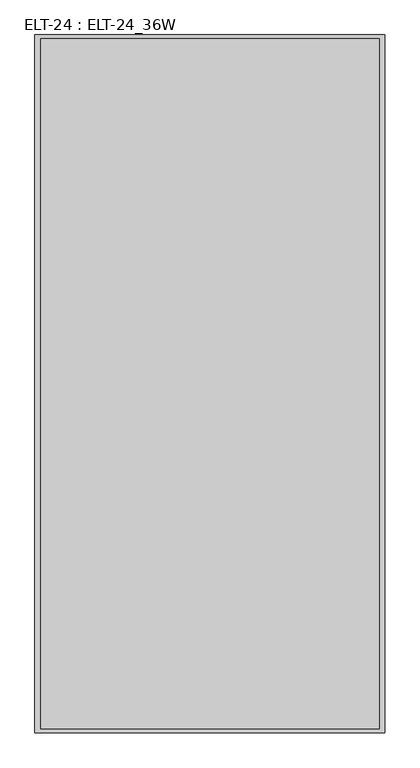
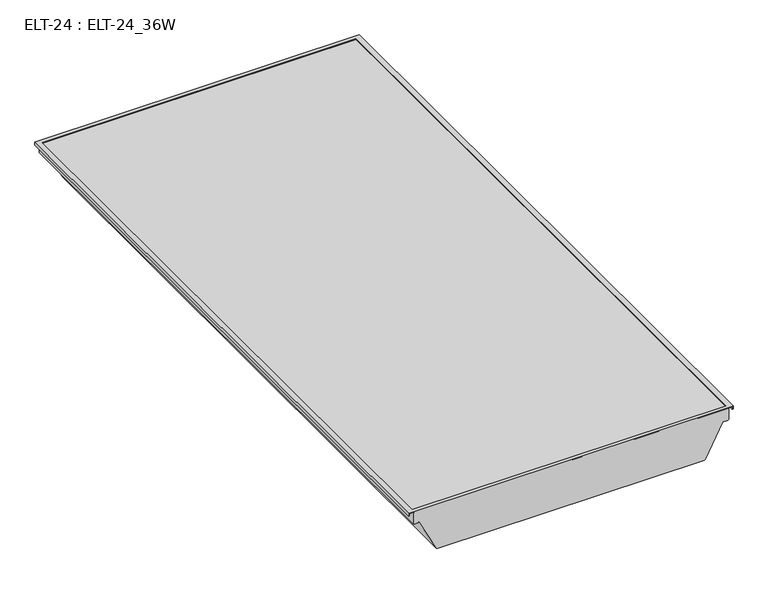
"""IFC4 building model written with IfcOpenShell, lengths in millimetres: light fixture geometry, ELT-24 : ELT-24_36W."""

import ifcopenshell
import ifcopenshell.guid

model = None  # the IFC model being written
_history = None  # IfcOwnerHistory: only IFC2X3 demands one
_inside = {}  # id of a spatial element -> (the spatial element, [elements in it])
_under = {}  # id of a project, library or spatial element -> (it, [spatial elements below it])
_declared = {}  # id of a project -> (the project, [libraries it declares])
_typed = {}  # id of a type object -> (the type object, [elements of that type])
_made_of = {}  # id of a material, layer set ... -> (it, [elements and type objects made of it])


def new_model(schema):
    """Start an empty IFC model of exactly this schema.

    Asked for "IFC4X3", IfcOpenShell would pick the latest addendum, in which some entities
    have other attributes; the version numbers below select the first issue.
    IFC2X3 requires an IfcOwnerHistory on every rooted entity: one is made here for all.
    """
    global model, _history
    if schema == "IFC4X3":
        model = ifcopenshell.file(schema_version=(4, 3, 0, 0))
    else:
        model = ifcopenshell.file(schema=schema)
    _inside.clear()
    _under.clear()
    _declared.clear()
    _typed.clear()
    _made_of.clear()
    _history = None
    if model.schema == "IFC2X3":
        org = make("IfcOrganization", Name="unknown")
        user = make(
            "IfcPersonAndOrganization",
            ThePerson=make("IfcPerson", FamilyName="unknown"),
            TheOrganization=org,
        )
        app = make(
            "IfcApplication",
            ApplicationDeveloper=org,
            Version="unknown",
            ApplicationFullName="unknown",
            ApplicationIdentifier="unknown",
        )
        _history = make(
            "IfcOwnerHistory",
            OwningUser=user,
            OwningApplication=app,
            ChangeAction="ADDED",
            CreationDate=0,
        )
    return model


def make(cls, **values):
    """One entity of the class cls with the attributes given. An attribute that is None is left unset."""
    return model.create_entity(
        cls, **{name: value for name, value in values.items() if value is not None}
    )


def rooted(cls, **values):
    """An entity with a GlobalId (a new one), such as an element, a storey or a relation."""
    return make(cls, GlobalId=ifcopenshell.guid.new(), OwnerHistory=_history, **values)


def si_unit(unit_type, name, prefix=None):
    """IfcSIUnit, for example si_unit("LENGTHUNIT", "METRE", prefix="MILLI")."""
    return make("IfcSIUnit", UnitType=unit_type, Prefix=prefix, Name=name)


def assignment(units):
    """IfcUnitAssignment: the units of a project."""
    return None if units is None else make("IfcUnitAssignment", Units=units)


def point(xyz):
    """IfcCartesianPoint."""
    return None if xyz is None else make("IfcCartesianPoint", Coordinates=xyz)


def direction(xyz):
    """IfcDirection."""
    return None if xyz is None else make("IfcDirection", DirectionRatios=xyz)


def frame(location, z_axis=None, x_axis=None):
    """IfcAxis2Placement3D, a coordinate frame: its origin and axes. An axis left out is left unset."""
    return make(
        "IfcAxis2Placement3D",
        Location=point(location),
        Axis=direction(z_axis),
        RefDirection=direction(x_axis),
    )


def origin():
    """The frame at (0, 0, 0) with its axes left unset."""
    return frame((0.0, 0.0, 0.0))


def place(relative_to, where):
    """IfcLocalPlacement: puts the frame where relative to a parent placement (None: the world)."""
    return make(
        "IfcLocalPlacement", PlacementRelTo=relative_to, RelativePlacement=where
    )


def context(
    kind, dimensions, precision=None, world=None, true_north=None, identifier=None
):
    """IfcGeometricRepresentationContext, for example the 3D "Model" context."""
    return make(
        "IfcGeometricRepresentationContext",
        ContextIdentifier=identifier,
        ContextType=kind,
        CoordinateSpaceDimension=dimensions,
        Precision=precision,
        WorldCoordinateSystem=world,
        TrueNorth=true_north,
    )


def project(units=None, contexts=None):
    """IfcProject with its units and contexts."""
    return rooted(
        "IfcProject",
        Name="project",
        RepresentationContexts=contexts,
        UnitsInContext=assignment(units),
    )


def spatial(cls, under=None, at=None, **own):
    """A site, building, storey or space (cls), placed at a placement, below another one or the project."""
    s = rooted(cls, ObjectPlacement=at, **own)
    if under is not None:
        _under.setdefault(under.id(), (under, []))[1].append(s)
    return s


def polyline(points):
    """IfcPolyline through the points."""
    return make("IfcPolyline", Points=[point(p) for p in points])


def outline(outer, holes=None, kind="AREA"):
    """IfcArbitraryClosedProfileDef: a profile drawn as a closed curve; with holes, ...WithVoids."""
    if holes is None:
        return make("IfcArbitraryClosedProfileDef", ProfileType=kind, OuterCurve=outer)
    return make(
        "IfcArbitraryProfileDefWithVoids",
        ProfileType=kind,
        OuterCurve=outer,
        InnerCurves=holes,
    )


def extrude(swept, where, along, depth):
    """IfcExtrudedAreaSolid: the profile swept, set in the frame where, extruded along a direction by depth."""
    return make(
        "IfcExtrudedAreaSolid",
        SweptArea=swept,
        Position=where,
        ExtrudedDirection=direction(along),
        Depth=depth,
    )


def faces_of(points, faces, orient=None, outer=None):
    """IfcFace entities. A face is a list of loops; a loop is a list of indices into points, from 0.

    orient and outer hold one flag for each loop. By default every Orientation is true, the
    first loop of a face is its IfcFaceOuterBound and the others are IfcFaceBound.
    """
    made = []
    for i, loops in enumerate(faces):
        bounds = []
        for j, loop in enumerate(loops):
            is_outer = j == 0 if outer is None else outer[i][j]
            bounds.append(
                make(
                    "IfcFaceOuterBound" if is_outer else "IfcFaceBound",
                    Bound=make("IfcPolyLoop", Polygon=[points[k] for k in loop]),
                    Orientation=True if orient is None else orient[i][j],
                )
            )
        made.append(make("IfcFace", Bounds=bounds))
    return made


def faceted_brep(points, faces, orient=None, outer=None, voids=None):
    """IfcFacetedBrep: a solid bounded by flat faces; with voids (closed shells), ...WithVoids."""
    shared = [point(p) for p in points]
    hull = make("IfcClosedShell", CfsFaces=faces_of(shared, faces, orient, outer))
    if voids is None:
        return make("IfcFacetedBrep", Outer=hull)
    return make(
        "IfcFacetedBrepWithVoids",
        Outer=hull,
        Voids=[
            make(cls, CfsFaces=faces_of(shared, fs, o, b)) for cls, fs, o, b in voids
        ],
    )


def shape(context_of_items, identifier, shape_type, items):
    """IfcShapeRepresentation: the items that make up one representation, for example the "Body"."""
    return make(
        "IfcShapeRepresentation",
        ContextOfItems=context_of_items,
        RepresentationIdentifier=identifier,
        RepresentationType=shape_type,
        Items=items,
    )


def source(mapping_origin, context_of_items, identifier, shape_type, items):
    """IfcRepresentationMap: a shape defined once, which mapped items show again and again."""
    return make(
        "IfcRepresentationMap",
        MappingOrigin=mapping_origin,
        MappedRepresentation=shape(context_of_items, identifier, shape_type, items),
    )


def transform(
    local_origin,
    x_axis=None,
    y_axis=None,
    z_axis=None,
    scale=None,
    scale2=None,
    scale3=None,
    uniform=True,
):
    """IfcCartesianTransformationOperator3D, or its non-uniform kind. x_axis, y_axis, z_axis: its Axis1, 2, 3."""
    if uniform:
        return make(
            "IfcCartesianTransformationOperator3D",
            Axis1=direction(x_axis),
            Axis2=direction(y_axis),
            LocalOrigin=point(local_origin),
            Scale=scale,
            Axis3=direction(z_axis),
        )
    return make(
        "IfcCartesianTransformationOperator3DnonUniform",
        Axis1=direction(x_axis),
        Axis2=direction(y_axis),
        LocalOrigin=point(local_origin),
        Scale=scale,
        Axis3=direction(z_axis),
        Scale2=scale2,
        Scale3=scale3,
    )


def mapped(mapping_source, mapping_target):
    """IfcMappedItem: shows the shape of a source again, moved by a transform."""
    return make(
        "IfcMappedItem", MappingSource=mapping_source, MappingTarget=mapping_target
    )


def made_of(thing, what):
    """Note that an element or type object is made of a material, layer set ...; save() writes the relation."""
    if what is not None:
        _made_of.setdefault(what.id(), (what, []))[1].append(thing)
    return thing


def element(
    cls,
    number,
    at=None,
    inside=None,
    cuts=None,
    type_object=None,
    material=None,
    context=None,
    identifier="Body",
    shape_type=None,
    held_by="IfcProductDefinitionShape",
    body=None,
    shapes=None,
    **own,
):
    """One element of the class cls, such as IfcWall. Its Tag is "e" and its number.

    at: its placement. inside: the storey or other place that contains it. cuts: it is an
    opening in that element (IfcRelVoidsElement). A single representation is given by context,
    identifier, shape_type and body (its items); several are given by shapes. held_by: the class
    of the entity that holds the representations. save() writes the other relations.
    """
    e = rooted(cls, Tag="e%d" % number, ObjectPlacement=at, **own)
    if body is not None:
        shapes = [shape(context, identifier, shape_type, body)]
    if shapes is not None:
        e.Representation = make(held_by, Representations=shapes)
    if inside is not None:
        _inside.setdefault(inside.id(), (inside, []))[1].append(e)
    if cuts is not None:
        rooted(
            "IfcRelVoidsElement", RelatingBuildingElement=cuts, RelatedOpeningElement=e
        )
    if type_object is not None:
        _typed.setdefault(type_object.id(), (type_object, []))[1].append(e)
    return made_of(e, material)


def aggregate(whole, parts):
    """IfcRelAggregates: a whole, such as a stair, and the parts it consists of."""
    return rooted("IfcRelAggregates", RelatingObject=whole, RelatedObjects=parts)


def save(model, path):
    """Write the relations noted so far, then the file.

    IfcRelAggregates (storeys below a building ...), IfcRelContainedInSpatialStructure (elements
    in a storey), IfcRelDefinesByType, IfcRelAssociatesMaterial and IfcRelDeclares: one each for
    every whole, place, type object, material and project.
    """
    for whole, parts in _under.values():
        aggregate(whole, parts)
    for where, things in _inside.values():
        rooted(
            "IfcRelContainedInSpatialStructure",
            RelatedElements=things,
            RelatingStructure=where,
        )
    for kind, things in _typed.values():
        rooted("IfcRelDefinesByType", RelatedObjects=things, RelatingType=kind)
    for what, things in _made_of.values():
        rooted("IfcRelAssociatesMaterial", RelatedObjects=things, RelatingMaterial=what)
    for by, libraries in _declared.values():
        rooted("IfcRelDeclares", RelatingContext=by, RelatedDefinitions=libraries)
    model.write(path)


def elt_24_elt_24_36w_af5d0431(model_context):
    return source(origin(), model_context, "Body", "SolidModel", [
        faceted_brep([(90.9148965, 606.5, -0.0444983), (90.9148965, 606.5, -4.4970553), (89.3273965, 606.5, -4.4970553), (89.3273965, 606.5, 1.5430017), (697.3273965, 606.5, 1.5430017), (697.3273965, 606.5, -4.4970553), (695.7398965, 606.5, -4.4970553), (695.7398965, 606.5, -0.0444983), (688.8958244, 606.5, -0.0444983), (688.8958244, 606.5, -22.1324213), (687.3121675, 606.5, -23.7160781), (677.563643, 606.5, -23.7160781), (645.2333109, 606.5, -86.2439385), (642.8435569, 606.5, -87.3582991), (143.799693, 606.5, -87.3582991), (141.4251495, 606.5, -86.2510313), (109.0911501, 606.5, -23.7160781), (99.3426255, 606.5, -23.7160781), (97.7589687, 606.5, -22.1324213), (97.7589687, 606.5, -0.0444983), (687.3083244, 600.15, 1.5430017), (99.3464687, 600.15, 1.5430017), (99.3464687, 600.15, -22.1285781), (110.0574766, 600.15, -22.1285781), (142.9639943, 600.15, -85.7707991), (643.6907987, 600.15, -85.7707991), (676.5973164, 600.15, -22.1285781), (687.3083244, 600.15, -22.1285781), (90.9148965, -606.5, -0.0444983), (90.9148965, -606.5, -4.4970553), (89.3273965, -606.5, -4.4970553), (89.3273965, -606.5, 1.5430017), (697.3273965, -606.5, 1.5430017), (687.3083244, -600.15, 1.5430017), (99.3464687, -600.15, 1.5430017), (697.3273965, -606.5, -4.4970553), (695.7398965, -606.5, -4.4970553), (695.7398965, -606.5, -0.0444983), (688.8958244, -606.5, -0.0444983), (688.8958244, -606.5, -22.1324213), (687.3121675, -606.5, -23.7160781), (677.563643, -606.5, -23.7160781), (645.2333109, -606.5, -86.2439385), (642.8435569, -606.5, -87.3582991), (143.799693, -606.5, -87.3582991), (141.4251495, -606.5, -86.2510313), (109.0911501, -606.5, -23.7160781), (99.3426255, -606.5, -23.7160781), (97.7589687, -606.5, -22.1324213), (97.7589687, -606.5, -0.0444983), (99.3464687, -600.15, -22.1285781), (110.0574766, -600.15, -22.1285781), (142.9639943, -600.15, -85.7707991), (643.6907987, -600.15, -85.7707991), (676.5973164, -600.15, -22.1285781), (687.3083244, -600.15, -22.1285781)], [[[0, 1, 2, 3, 4, 5, 6, 7, 8, 9, 10, 11, 12, 13, 14, 15, 16, 17, 18, 19]], [[20, 21, 22, 23, 24, 25, 26, 27]], [[1, 0, 28, 29]], [[2, 1, 29, 30]], [[3, 2, 30, 31]], [[4, 3, 31, 32], [20, 33, 34, 21]], [[5, 4, 32, 35]], [[6, 5, 35, 36]], [[7, 6, 36, 37]], [[8, 7, 37, 38]], [[9, 8, 38, 39]], [[10, 9, 39, 40]], [[11, 10, 40, 41]], [[12, 11, 41, 42]], [[13, 12, 42, 43]], [[14, 13, 43, 44]], [[15, 14, 44, 45]], [[16, 15, 45, 46]], [[17, 16, 46, 47]], [[18, 17, 47, 48]], [[19, 18, 48, 49]], [[28, 0, 19, 49]], [[22, 21, 34, 50]], [[23, 22, 50, 51]], [[24, 23, 51, 52]], [[25, 24, 52, 53]], [[26, 25, 53, 54]], [[27, 26, 54, 55]], [[20, 27, 55, 33]], [[34, 33, 55, 54, 53, 52, 51, 50]], [[28, 49, 48, 47, 46, 45, 44, 43, 42, 41, 40, 39, 38, 37, 36, 35, 32, 31, 30, 29]]]),
        extrude(outline(polyline([(98.5464687, 606.5), (688.1083244, 606.5), (688.1083244, -606.5242188), (98.5464687, -606.5242188), (98.5464687, 606.5)])), frame((0.0, 0.0, -1.3159149), z_axis=(0.0, 0.0, 1.0), x_axis=(1.0, 0.0, 0.0)), (0.0, 0.0, 1.0), 1.2714166),
    ])


if __name__ == "__main__":
    model = new_model("IFC4")
    model_context = context("Model", 3, world=origin())
    ifc_project = project(units=[si_unit("LENGTHUNIT", "METRE", prefix="MILLI")], contexts=[model_context])
    site = spatial("IfcSite", under=ifc_project)
    building = spatial("IfcBuilding", under=site)
    placement = place(None, origin())
    elt_24_elt_24_36w_shape = elt_24_elt_24_36w_af5d0431(model_context)
    element("IfcLightFixture", 1, ObjectType="ELT-24 : ELT-24_36W", at=placement, inside=building, context=model_context, shape_type="MappedRepresentation", body=[
        mapped(elt_24_elt_24_36w_shape, transform((0.0, 0.0, 0.0), x_axis=(1.0, 0.0, 0.0), y_axis=(0.0, 1.0, 0.0), z_axis=(0.0, 0.0, 1.0))),
    ])
    save(model, "model.ifc")
